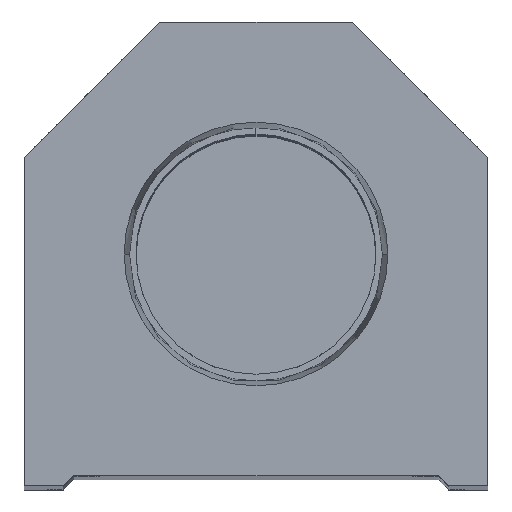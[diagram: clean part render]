
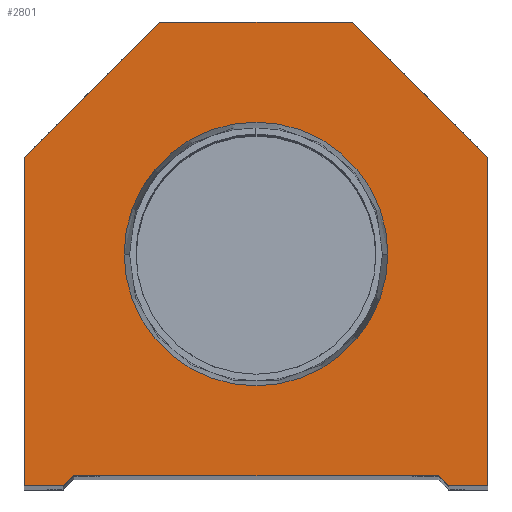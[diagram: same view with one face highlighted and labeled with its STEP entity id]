
A CAD part, top view. The second image highlights one B-rep face of the part: STEP entity #2801.
In plain terms, the highlighted planar face has unit normal (0, 0, 1).
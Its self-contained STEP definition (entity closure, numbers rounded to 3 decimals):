
#471 = ORIENTED_EDGE ( 'NONE', *, *, #12307, .T. ) ;
#474 = VERTEX_POINT ( 'NONE', #21298 ) ;
#1170 = DIRECTION ( 'NONE',  ( 1., 0., 0. ) ) ;
#1655 = DIRECTION ( 'NONE',  ( 0., 0., 1. ) ) ;
#2086 = LINE ( 'NONE', #23705, #20006 ) ;
#2169 = CARTESIAN_POINT ( 'NONE',  ( -22.25, 0., 0. ) ) ;
#2320 = VERTEX_POINT ( 'NONE', #5329 ) ;
#2801 = ADVANCED_FACE ( 'NONE', ( #20727, #22681 ), #7059, .T. ) ;
#3381 = EDGE_CURVE ( 'NONE', #474, #14370, #19732, .T. ) ;
#3440 = AXIS2_PLACEMENT_3D ( 'NONE', #25236, #5408, #1170 ) ;
#3860 = VERTEX_POINT ( 'NONE', #8053 ) ;
#4497 = DIRECTION ( 'NONE',  ( -1., 0., 0. ) ) ;
#4596 = VECTOR ( 'NONE', #4497, 1000. ) ;
#4661 = CIRCLE ( 'NONE', #3440, 12.647 ) ;
#4941 = VECTOR ( 'NONE', #25093, 1000. ) ;
#5013 = VERTEX_POINT ( 'NONE', #13805 ) ;
#5236 = DIRECTION ( 'NONE',  ( 0.707, 0.707, 0. ) ) ;
#5329 = CARTESIAN_POINT ( 'NONE',  ( -22.25, 0., 0. ) ) ;
#5379 = VERTEX_POINT ( 'NONE', #13359 ) ;
#5408 = DIRECTION ( 'NONE',  ( 0., 0., 1. ) ) ;
#5770 = VERTEX_POINT ( 'NONE', #11208 ) ;
#7059 = PLANE ( 'NONE',  #16469 ) ;
#7163 = DIRECTION ( 'NONE',  ( 1., 0., 0. ) ) ;
#7378 = EDGE_LOOP ( 'NONE', ( #20199, #23635 ) ) ;
#7588 = AXIS2_PLACEMENT_3D ( 'NONE', #23288, #1655, #7163 ) ;
#7890 = VECTOR ( 'NONE', #10045, 1000. ) ;
#8053 = CARTESIAN_POINT ( 'NONE',  ( -12.647, 22.25, 0. ) ) ;
#8490 = LINE ( 'NONE', #16106, #7890 ) ;
#8540 = CARTESIAN_POINT ( 'NONE',  ( 17.5, 1., 0. ) ) ;
#9044 = LINE ( 'NONE', #16923, #10847 ) ;
#9083 = LINE ( 'NONE', #16354, #17202 ) ;
#9229 = DIRECTION ( 'NONE',  ( 0., -1., 0. ) ) ;
#10008 = CARTESIAN_POINT ( 'NONE',  ( 9.25, 44.5, 0. ) ) ;
#10045 = DIRECTION ( 'NONE',  ( 0., 1., 0. ) ) ;
#10172 = CARTESIAN_POINT ( 'NONE',  ( 17.5, 0., 0. ) ) ;
#10388 = ORIENTED_EDGE ( 'NONE', *, *, #3381, .T. ) ;
#10623 = VERTEX_POINT ( 'NONE', #16577 ) ;
#10847 = VECTOR ( 'NONE', #17175, 1000. ) ;
#10914 = DIRECTION ( 'NONE',  ( 0., 0., 1. ) ) ;
#11208 = CARTESIAN_POINT ( 'NONE',  ( 12.647, 22.25, 0. ) ) ;
#11312 = EDGE_CURVE ( 'NONE', #5013, #2320, #25217, .T. ) ;
#11353 = EDGE_CURVE ( 'NONE', #2320, #15283, #13348, .T. ) ;
#11564 = ORIENTED_EDGE ( 'NONE', *, *, #11353, .T. ) ;
#12012 = CARTESIAN_POINT ( 'NONE',  ( 9.25, 44.5, 0. ) ) ;
#12307 = EDGE_CURVE ( 'NONE', #16655, #22380, #14251, .T. ) ;
#12343 = EDGE_CURVE ( 'NONE', #14336, #474, #13994, .T. ) ;
#12361 = VECTOR ( 'NONE', #9229, 1000. ) ;
#12817 = EDGE_CURVE ( 'NONE', #14370, #10623, #8490, .T. ) ;
#13348 = LINE ( 'NONE', #21227, #4941 ) ;
#13359 = CARTESIAN_POINT ( 'NONE',  ( -17.5, 1., 0. ) ) ;
#13621 = EDGE_CURVE ( 'NONE', #3860, #5770, #4661, .T. ) ;
#13805 = CARTESIAN_POINT ( 'NONE',  ( -22.25, 31.5, 0. ) ) ;
#13994 = LINE ( 'NONE', #21628, #18973 ) ;
#14251 = LINE ( 'NONE', #10008, #4596 ) ;
#14336 = VERTEX_POINT ( 'NONE', #8540 ) ;
#14370 = VERTEX_POINT ( 'NONE', #14835 ) ;
#14835 = CARTESIAN_POINT ( 'NONE',  ( 22.25, 0., 0. ) ) ;
#15092 = EDGE_CURVE ( 'NONE', #10623, #16655, #9044, .T. ) ;
#15283 = VERTEX_POINT ( 'NONE', #19621 ) ;
#16106 = CARTESIAN_POINT ( 'NONE',  ( 22.25, 0., 0. ) ) ;
#16354 = CARTESIAN_POINT ( 'NONE',  ( -9.25, 9.25, 0. ) ) ;
#16469 = AXIS2_PLACEMENT_3D ( 'NONE', #16991, #10914, #21462 ) ;
#16552 = CARTESIAN_POINT ( 'NONE',  ( -9.25, 44.5, 0. ) ) ;
#16577 = CARTESIAN_POINT ( 'NONE',  ( 22.25, 31.5, 0. ) ) ;
#16655 = VERTEX_POINT ( 'NONE', #12012 ) ;
#16852 = ORIENTED_EDGE ( 'NONE', *, *, #12343, .T. ) ;
#16923 = CARTESIAN_POINT ( 'NONE',  ( 22.25, 31.5, 0. ) ) ;
#16991 = CARTESIAN_POINT ( 'NONE',  ( 0., 0., 0. ) ) ;
#17157 = EDGE_CURVE ( 'NONE', #5770, #3860, #20375, .T. ) ;
#17175 = DIRECTION ( 'NONE',  ( -0.707, 0.707, 0. ) ) ;
#17202 = VECTOR ( 'NONE', #5236, 1000. ) ;
#17396 = DIRECTION ( 'NONE',  ( -0.707, -0.707, 0. ) ) ;
#17779 = ORIENTED_EDGE ( 'NONE', *, *, #19142, .T. ) ;
#17896 = DIRECTION ( 'NONE',  ( 0.707, -0.707, 0. ) ) ;
#18062 = DIRECTION ( 'NONE',  ( 1., 0., 0. ) ) ;
#18317 = EDGE_CURVE ( 'NONE', #22380, #5013, #2086, .T. ) ;
#18450 = ORIENTED_EDGE ( 'NONE', *, *, #15092, .T. ) ;
#18719 = ORIENTED_EDGE ( 'NONE', *, *, #18317, .T. ) ;
#18973 = VECTOR ( 'NONE', #17896, 1000. ) ;
#19070 = ORIENTED_EDGE ( 'NONE', *, *, #12817, .T. ) ;
#19142 = EDGE_CURVE ( 'NONE', #15283, #5379, #9083, .T. ) ;
#19373 = LINE ( 'NONE', #22982, #20996 ) ;
#19621 = CARTESIAN_POINT ( 'NONE',  ( -18.5, 0., 0. ) ) ;
#19732 = LINE ( 'NONE', #10172, #23924 ) ;
#19947 = ORIENTED_EDGE ( 'NONE', *, *, #21653, .T. ) ;
#20006 = VECTOR ( 'NONE', #17396, 1000. ) ;
#20199 = ORIENTED_EDGE ( 'NONE', *, *, #17157, .F. ) ;
#20375 = CIRCLE ( 'NONE', #7588, 12.647 ) ;
#20447 = EDGE_LOOP ( 'NONE', ( #11564, #17779, #19947, #16852, #10388, #19070, #18450, #471, #18719, #21845 ) ) ;
#20727 = FACE_BOUND ( 'NONE', #7378, .T. ) ;
#20996 = VECTOR ( 'NONE', #21164, 1000. ) ;
#21164 = DIRECTION ( 'NONE',  ( 1., 0., 0. ) ) ;
#21227 = CARTESIAN_POINT ( 'NONE',  ( -17.5, 0., 0. ) ) ;
#21298 = CARTESIAN_POINT ( 'NONE',  ( 18.5, 0., 0. ) ) ;
#21462 = DIRECTION ( 'NONE',  ( 1., 0., 0. ) ) ;
#21628 = CARTESIAN_POINT ( 'NONE',  ( 9.25, 9.25, 0. ) ) ;
#21653 = EDGE_CURVE ( 'NONE', #5379, #14336, #19373, .T. ) ;
#21845 = ORIENTED_EDGE ( 'NONE', *, *, #11312, .T. ) ;
#22380 = VERTEX_POINT ( 'NONE', #16552 ) ;
#22681 = FACE_OUTER_BOUND ( 'NONE', #20447, .T. ) ;
#22982 = CARTESIAN_POINT ( 'NONE',  ( -17.5, 1., 0. ) ) ;
#23288 = CARTESIAN_POINT ( 'NONE',  ( 0., 22.25, 0. ) ) ;
#23635 = ORIENTED_EDGE ( 'NONE', *, *, #13621, .F. ) ;
#23705 = CARTESIAN_POINT ( 'NONE',  ( -22.25, 31.5, 0. ) ) ;
#23924 = VECTOR ( 'NONE', #18062, 1000. ) ;
#25093 = DIRECTION ( 'NONE',  ( 1., 0., 0. ) ) ;
#25217 = LINE ( 'NONE', #2169, #12361 ) ;
#25236 = CARTESIAN_POINT ( 'NONE',  ( 0., 22.25, 0. ) ) ;
